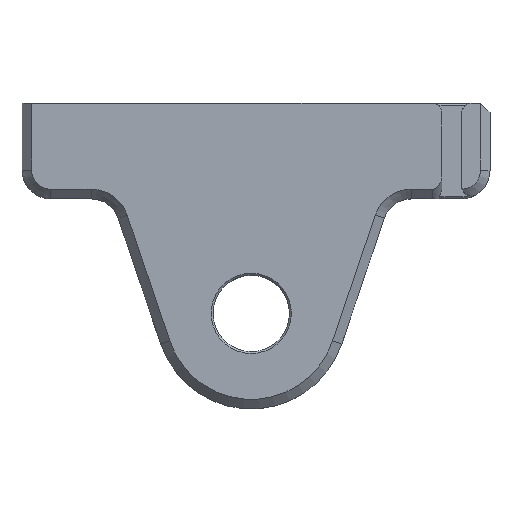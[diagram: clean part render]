
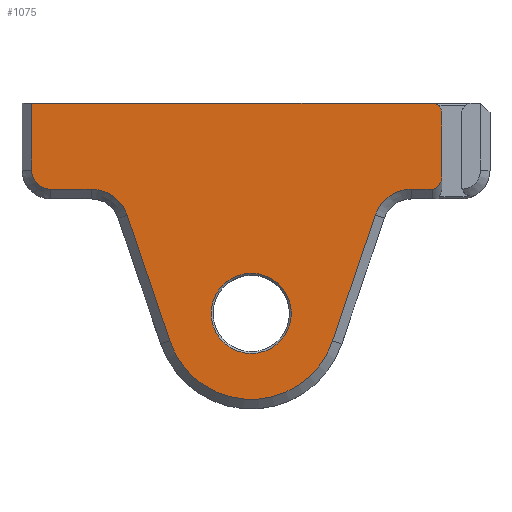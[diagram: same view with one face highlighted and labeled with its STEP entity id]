
A CAD part, top view. The second image highlights one B-rep face of the part: STEP entity #1075.
In plain terms, the highlighted planar face has unit normal (0, 0, 1).
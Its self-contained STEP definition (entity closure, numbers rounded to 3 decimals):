
#18=FACE_BOUND('',#190,.T.);
#37=ELLIPSE('',#1184,1.414,1.);
#53=CIRCLE('',#1178,1.);
#54=CIRCLE('',#1180,2.);
#55=CIRCLE('',#1181,4.);
#56=CIRCLE('',#1182,9.);
#57=CIRCLE('',#1183,4.);
#58=CIRCLE('',#1185,4.2);
#122=FACE_OUTER_BOUND('',#189,.T.);
#189=EDGE_LOOP('',(#748,#749,#750,#751,#752,#753,#754,#755,#756,#757,#758,
#759,#760));
#190=EDGE_LOOP('',(#761));
#264=LINE('',#1691,#358);
#271=LINE('',#1716,#365);
#272=LINE('',#1720,#366);
#273=LINE('',#1724,#367);
#274=LINE('',#1728,#368);
#275=LINE('',#1732,#369);
#276=LINE('',#1735,#370);
#358=VECTOR('',#1335,10.);
#365=VECTOR('',#1362,10.);
#366=VECTOR('',#1365,10.);
#367=VECTOR('',#1368,10.);
#368=VECTOR('',#1371,10.);
#369=VECTOR('',#1374,10.);
#370=VECTOR('',#1377,10.);
#452=VERTEX_POINT('',#1679);
#457=VERTEX_POINT('',#1689);
#464=VERTEX_POINT('',#1711);
#465=VERTEX_POINT('',#1715);
#466=VERTEX_POINT('',#1717);
#467=VERTEX_POINT('',#1719);
#468=VERTEX_POINT('',#1721);
#469=VERTEX_POINT('',#1723);
#470=VERTEX_POINT('',#1725);
#471=VERTEX_POINT('',#1727);
#472=VERTEX_POINT('',#1729);
#473=VERTEX_POINT('',#1731);
#474=VERTEX_POINT('',#1733);
#475=VERTEX_POINT('',#1736);
#559=EDGE_CURVE('',#452,#457,#264,.T.);
#569=EDGE_CURVE('',#464,#452,#53,.T.);
#571=EDGE_CURVE('',#457,#465,#271,.T.);
#572=EDGE_CURVE('',#465,#466,#54,.T.);
#573=EDGE_CURVE('',#466,#467,#272,.T.);
#574=EDGE_CURVE('',#467,#468,#55,.T.);
#575=EDGE_CURVE('',#468,#469,#273,.T.);
#576=EDGE_CURVE('',#469,#470,#56,.T.);
#577=EDGE_CURVE('',#470,#471,#274,.T.);
#578=EDGE_CURVE('',#471,#472,#57,.T.);
#579=EDGE_CURVE('',#472,#473,#275,.T.);
#580=EDGE_CURVE('',#473,#474,#37,.T.);
#581=EDGE_CURVE('',#464,#474,#276,.T.);
#582=EDGE_CURVE('',#475,#475,#58,.T.);
#748=ORIENTED_EDGE('',*,*,#569,.T.);
#749=ORIENTED_EDGE('',*,*,#559,.T.);
#750=ORIENTED_EDGE('',*,*,#571,.T.);
#751=ORIENTED_EDGE('',*,*,#572,.T.);
#752=ORIENTED_EDGE('',*,*,#573,.T.);
#753=ORIENTED_EDGE('',*,*,#574,.T.);
#754=ORIENTED_EDGE('',*,*,#575,.T.);
#755=ORIENTED_EDGE('',*,*,#576,.T.);
#756=ORIENTED_EDGE('',*,*,#577,.T.);
#757=ORIENTED_EDGE('',*,*,#578,.T.);
#758=ORIENTED_EDGE('',*,*,#579,.T.);
#759=ORIENTED_EDGE('',*,*,#580,.T.);
#760=ORIENTED_EDGE('',*,*,#581,.F.);
#761=ORIENTED_EDGE('',*,*,#582,.T.);
#975=PLANE('',#1179);
#1075=ADVANCED_FACE('',(#122,#18),#975,.T.);
#1178=AXIS2_PLACEMENT_3D('',#1712,#1357,#1358);
#1179=AXIS2_PLACEMENT_3D('',#1714,#1360,#1361);
#1180=AXIS2_PLACEMENT_3D('',#1718,#1363,#1364);
#1181=AXIS2_PLACEMENT_3D('',#1722,#1366,#1367);
#1182=AXIS2_PLACEMENT_3D('',#1726,#1369,#1370);
#1183=AXIS2_PLACEMENT_3D('',#1730,#1372,#1373);
#1184=AXIS2_PLACEMENT_3D('',#1734,#1375,#1376);
#1185=AXIS2_PLACEMENT_3D('',#1737,#1378,#1379);
#1335=DIRECTION('',(-1.,0.,0.));
#1357=DIRECTION('center_axis',(0.,0.,1.));
#1358=DIRECTION('ref_axis',(0.707,0.707,0.));
#1360=DIRECTION('center_axis',(0.,0.,1.));
#1361=DIRECTION('ref_axis',(1.,0.,0.));
#1362=DIRECTION('',(0.,-1.,0.));
#1363=DIRECTION('center_axis',(0.,0.,1.));
#1364=DIRECTION('ref_axis',(-0.707,-0.707,0.));
#1365=DIRECTION('',(1.,0.,0.));
#1366=DIRECTION('center_axis',(0.,0.,-1.));
#1367=DIRECTION('ref_axis',(0.583,0.813,0.));
#1368=DIRECTION('',(0.32,-0.947,0.));
#1369=DIRECTION('center_axis',(0.,0.,1.));
#1370=DIRECTION('ref_axis',(-0.947,-0.32,0.));
#1371=DIRECTION('',(0.32,0.947,0.));
#1372=DIRECTION('center_axis',(0.,0.,-1.));
#1373=DIRECTION('ref_axis',(-0.583,0.813,0.));
#1374=DIRECTION('',(1.,0.,0.));
#1375=DIRECTION('center_axis',(0.,0.,1.));
#1376=DIRECTION('ref_axis',(0.,-1.,0.));
#1377=DIRECTION('',(0.,-1.,0.));
#1378=DIRECTION('center_axis',(0.,0.,-1.));
#1379=DIRECTION('ref_axis',(-1.,0.,0.));
#1679=CARTESIAN_POINT('',(18.95,22.,5.));
#1689=CARTESIAN_POINT('',(-23.,22.,5.));
#1691=CARTESIAN_POINT('',(18.,22.,5.));
#1711=CARTESIAN_POINT('',(19.95,21.,5.));
#1712=CARTESIAN_POINT('Origin',(18.95,21.,5.));
#1714=CARTESIAN_POINT('Origin',(0.,6.,5.));
#1715=CARTESIAN_POINT('',(-23.,15.,5.));
#1716=CARTESIAN_POINT('',(-23.,14.,5.));
#1717=CARTESIAN_POINT('',(-21.,13.,5.));
#1718=CARTESIAN_POINT('Origin',(-21.,15.,5.));
#1719=CARTESIAN_POINT('',(-16.769,13.,5.));
#1720=CARTESIAN_POINT('',(-9.496,13.,5.));
#1721=CARTESIAN_POINT('',(-12.98,10.282,5.));
#1722=CARTESIAN_POINT('Origin',(-16.769,9.,5.));
#1723=CARTESIAN_POINT('',(-8.525,-2.884,5.));
#1724=CARTESIAN_POINT('',(-13.7,12.41,5.));
#1725=CARTESIAN_POINT('',(8.525,-2.884,5.));
#1726=CARTESIAN_POINT('Origin',(0.,0.,5.));
#1727=CARTESIAN_POINT('',(12.98,10.282,5.));
#1728=CARTESIAN_POINT('',(9.436,-0.192,5.));
#1729=CARTESIAN_POINT('',(16.769,13.,5.));
#1730=CARTESIAN_POINT('Origin',(16.769,9.,5.));
#1731=CARTESIAN_POINT('',(18.95,13.,5.));
#1732=CARTESIAN_POINT('',(9.325,13.,5.));
#1733=CARTESIAN_POINT('',(19.95,14.414,5.));
#1734=CARTESIAN_POINT('Origin',(18.95,14.414,5.));
#1735=CARTESIAN_POINT('',(19.95,9.,5.));
#1736=CARTESIAN_POINT('',(4.2,0.,5.));
#1737=CARTESIAN_POINT('Origin',(0.,0.,5.));
